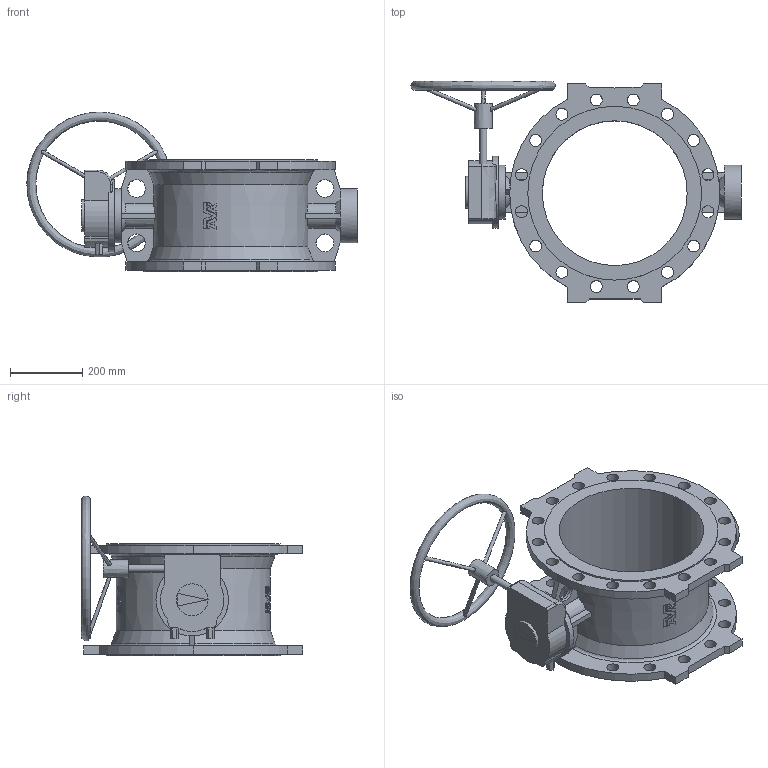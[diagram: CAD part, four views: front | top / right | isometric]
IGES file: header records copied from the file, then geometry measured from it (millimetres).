
Start section: SolidWorks IGES file using analytic representation for surfaces
Global section: file name: \\avksan2\techshare\PBM outline export from Enovia\O_756_1_DN400_1XX00_AA0_igs.igs; native system: SolidWorks 2012; preprocessor: SolidWorks 2012; author: pbm; date: 160304.124315; units: millimetre
Bounding box: 911.93 x 611 x 440.98 mm (x, y, z)
Surface area: 1785910.5 mm2 (no closed solid volume)
Topology: 0 solids, 0 shells, 357 faces, 2918 edges, 2826 vertices
Faces by surface type: bspline 251, revolution 106
